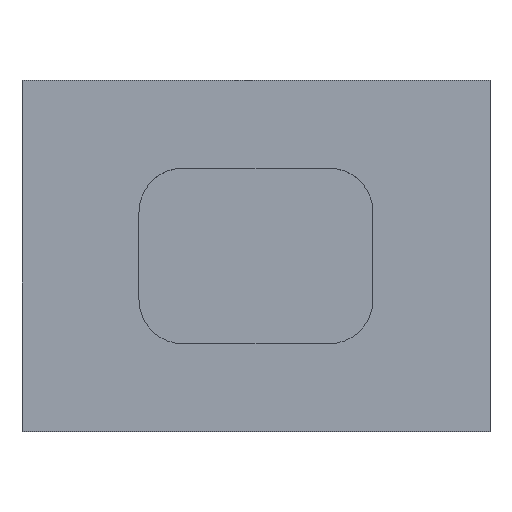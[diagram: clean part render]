
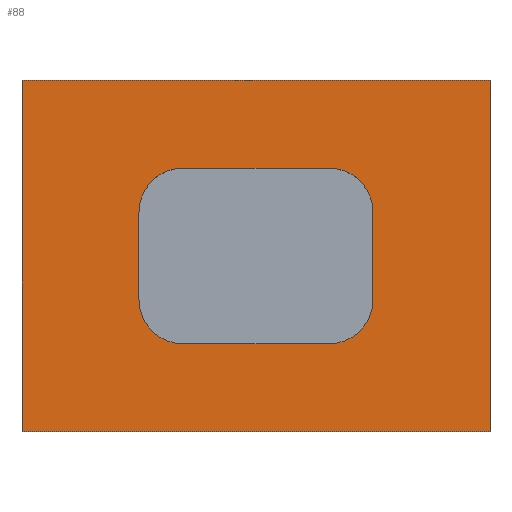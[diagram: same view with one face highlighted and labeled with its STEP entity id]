
A CAD part, top view. The second image highlights one B-rep face of the part: STEP entity #88.
In plain terms, the highlighted planar face has unit normal (0, 0, 1).
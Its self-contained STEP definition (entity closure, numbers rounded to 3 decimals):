
#24 = VERTEX_POINT('',#25);
#25 = CARTESIAN_POINT('',(0.,0.,0.));
#40 = VERTEX_POINT('',#41);
#41 = CARTESIAN_POINT('',(0.,6.,0.));
#47 = EDGE_CURVE('',#24,#40,#48,.T.);
#48 = LINE('',#49,#50);
#49 = CARTESIAN_POINT('',(0.,0.,0.));
#50 = VECTOR('',#51,1.);
#51 = DIRECTION('',(-0.,1.,0.));
#70 = EDGE_CURVE('',#24,#71,#73,.T.);
#71 = VERTEX_POINT('',#72);
#72 = CARTESIAN_POINT('',(8.,0.,0.));
#73 = LINE('',#74,#75);
#74 = CARTESIAN_POINT('',(0.,0.,0.));
#75 = VECTOR('',#76,1.);
#76 = DIRECTION('',(1.,0.,-0.));
#88 = ADVANCED_FACE('',(#89,#107),#177,.T.);
#89 = FACE_BOUND('',#90,.T.);
#90 = EDGE_LOOP('',(#91,#92,#93,#101));
#91 = ORIENTED_EDGE('',*,*,#47,.F.);
#92 = ORIENTED_EDGE('',*,*,#70,.T.);
#93 = ORIENTED_EDGE('',*,*,#94,.T.);
#94 = EDGE_CURVE('',#71,#95,#97,.T.);
#95 = VERTEX_POINT('',#96);
#96 = CARTESIAN_POINT('',(8.,6.,0.));
#97 = LINE('',#98,#99);
#98 = CARTESIAN_POINT('',(8.,0.,0.));
#99 = VECTOR('',#100,1.);
#100 = DIRECTION('',(-0.,1.,0.));
#101 = ORIENTED_EDGE('',*,*,#102,.F.);
#102 = EDGE_CURVE('',#40,#95,#103,.T.);
#103 = LINE('',#104,#105);
#104 = CARTESIAN_POINT('',(0.,6.,0.));
#105 = VECTOR('',#106,1.);
#106 = DIRECTION('',(1.,0.,-0.));
#107 = FACE_BOUND('',#108,.T.);
#108 = EDGE_LOOP('',(#109,#120,#128,#137,#145,#154,#162,#171));
#109 = ORIENTED_EDGE('',*,*,#110,.F.);
#110 = EDGE_CURVE('',#111,#113,#115,.T.);
#111 = VERTEX_POINT('',#112);
#112 = CARTESIAN_POINT('',(2.,2.25,0.));
#113 = VERTEX_POINT('',#114);
#114 = CARTESIAN_POINT('',(2.75,1.5,0.));
#115 = CIRCLE('',#116,0.75);
#116 = AXIS2_PLACEMENT_3D('',#117,#118,#119);
#117 = CARTESIAN_POINT('',(2.75,2.25,0.));
#118 = DIRECTION('',(0.,0.,1.));
#119 = DIRECTION('',(0.,-1.,0.));
#120 = ORIENTED_EDGE('',*,*,#121,.T.);
#121 = EDGE_CURVE('',#111,#122,#124,.T.);
#122 = VERTEX_POINT('',#123);
#123 = CARTESIAN_POINT('',(2.,3.75,0.));
#124 = LINE('',#125,#126);
#125 = CARTESIAN_POINT('',(2.,1.5,0.));
#126 = VECTOR('',#127,1.);
#127 = DIRECTION('',(-0.,1.,0.));
#128 = ORIENTED_EDGE('',*,*,#129,.T.);
#129 = EDGE_CURVE('',#122,#130,#132,.T.);
#130 = VERTEX_POINT('',#131);
#131 = CARTESIAN_POINT('',(2.75,4.5,0.));
#132 = CIRCLE('',#133,0.75);
#133 = AXIS2_PLACEMENT_3D('',#134,#135,#136);
#134 = CARTESIAN_POINT('',(2.75,3.75,0.));
#135 = DIRECTION('',(-0.,-0.,-1.));
#136 = DIRECTION('',(0.,-1.,0.));
#137 = ORIENTED_EDGE('',*,*,#138,.T.);
#138 = EDGE_CURVE('',#130,#139,#141,.T.);
#139 = VERTEX_POINT('',#140);
#140 = CARTESIAN_POINT('',(5.25,4.5,0.));
#141 = LINE('',#142,#143);
#142 = CARTESIAN_POINT('',(2.,4.5,0.));
#143 = VECTOR('',#144,1.);
#144 = DIRECTION('',(1.,0.,-0.));
#145 = ORIENTED_EDGE('',*,*,#146,.F.);
#146 = EDGE_CURVE('',#147,#139,#149,.T.);
#147 = VERTEX_POINT('',#148);
#148 = CARTESIAN_POINT('',(6.,3.75,0.));
#149 = CIRCLE('',#150,0.75);
#150 = AXIS2_PLACEMENT_3D('',#151,#152,#153);
#151 = CARTESIAN_POINT('',(5.25,3.75,0.));
#152 = DIRECTION('',(0.,0.,1.));
#153 = DIRECTION('',(0.,-1.,0.));
#154 = ORIENTED_EDGE('',*,*,#155,.F.);
#155 = EDGE_CURVE('',#156,#147,#158,.T.);
#156 = VERTEX_POINT('',#157);
#157 = CARTESIAN_POINT('',(6.,2.25,0.));
#158 = LINE('',#159,#160);
#159 = CARTESIAN_POINT('',(6.,1.5,0.));
#160 = VECTOR('',#161,1.);
#161 = DIRECTION('',(-0.,1.,0.));
#162 = ORIENTED_EDGE('',*,*,#163,.T.);
#163 = EDGE_CURVE('',#156,#164,#166,.T.);
#164 = VERTEX_POINT('',#165);
#165 = CARTESIAN_POINT('',(5.25,1.5,0.));
#166 = CIRCLE('',#167,0.75);
#167 = AXIS2_PLACEMENT_3D('',#168,#169,#170);
#168 = CARTESIAN_POINT('',(5.25,2.25,0.));
#169 = DIRECTION('',(-0.,-0.,-1.));
#170 = DIRECTION('',(0.,-1.,0.));
#171 = ORIENTED_EDGE('',*,*,#172,.F.);
#172 = EDGE_CURVE('',#113,#164,#173,.T.);
#173 = LINE('',#174,#175);
#174 = CARTESIAN_POINT('',(2.,1.5,0.));
#175 = VECTOR('',#176,1.);
#176 = DIRECTION('',(1.,0.,-0.));
#177 = PLANE('',#178);
#178 = AXIS2_PLACEMENT_3D('',#179,#180,#181);
#179 = CARTESIAN_POINT('',(0.,0.,0.));
#180 = DIRECTION('',(0.,0.,1.));
#181 = DIRECTION('',(1.,0.,-0.));
